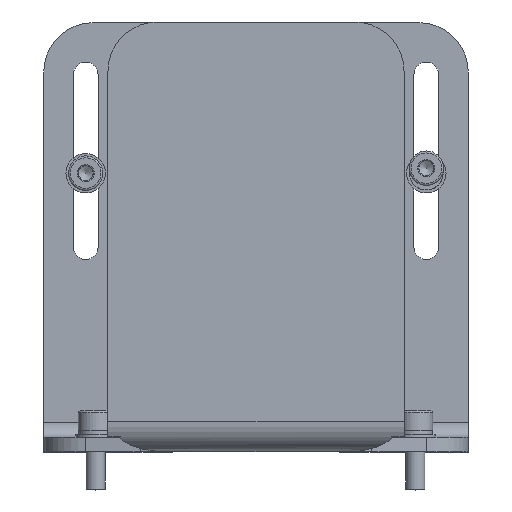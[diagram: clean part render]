
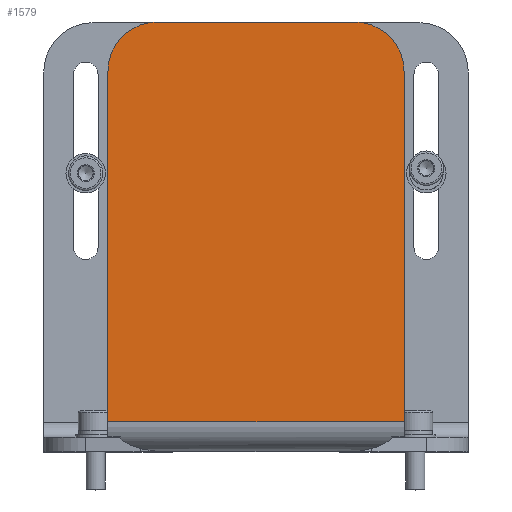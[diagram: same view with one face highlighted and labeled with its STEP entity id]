
A CAD part, top view. The second image highlights one B-rep face of the part: STEP entity #1579.
In plain terms, the highlighted planar face has unit normal (0, 0, 1).
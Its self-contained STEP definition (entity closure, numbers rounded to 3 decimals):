
#404=LINE('',#8124,#850);
#409=LINE('',#8138,#855);
#412=LINE('',#8148,#858);
#422=LINE('',#8170,#868);
#850=VECTOR('',#6531,1.);
#855=VECTOR('',#6544,1.);
#858=VECTOR('',#6555,1.);
#868=VECTOR('',#6573,1.);
#1237=FACE_OUTER_BOUND('',#2328,.T.);
#1579=ADVANCED_FACE('',(#1237),#1863,.F.);
#1863=PLANE('',#5575);
#2328=EDGE_LOOP('',(#3173,#3174,#3175,#3176,#3177,#3178));
#3173=ORIENTED_EDGE('',*,*,#4736,.F.);
#3174=ORIENTED_EDGE('',*,*,#4759,.T.);
#3175=ORIENTED_EDGE('',*,*,#4748,.T.);
#3176=ORIENTED_EDGE('',*,*,#4746,.T.);
#3177=ORIENTED_EDGE('',*,*,#4743,.F.);
#3178=ORIENTED_EDGE('',*,*,#4740,.T.);
#4185=VERTEX_POINT('',#8123);
#4186=VERTEX_POINT('',#8125);
#4189=VERTEX_POINT('',#8133);
#4191=VERTEX_POINT('',#8139);
#4193=VERTEX_POINT('',#8145);
#4194=VERTEX_POINT('',#8149);
#4736=EDGE_CURVE('',#4185,#4186,#404,.T.);
#4740=EDGE_CURVE('',#4189,#4186,#5206,.T.);
#4743=EDGE_CURVE('',#4189,#4191,#409,.T.);
#4746=EDGE_CURVE('',#4193,#4191,#5208,.T.);
#4748=EDGE_CURVE('',#4194,#4193,#412,.T.);
#4759=EDGE_CURVE('',#4185,#4194,#422,.T.);
#5206=CIRCLE('',#5565,10.);
#5208=CIRCLE('',#5569,10.);
#5565=AXIS2_PLACEMENT_3D('',#8132,#6538,#6539);
#5569=AXIS2_PLACEMENT_3D('',#8144,#6550,#6551);
#5575=AXIS2_PLACEMENT_3D('',#8171,#6574,#6575);
#6531=DIRECTION('',(0.,1.,0.));
#6538=DIRECTION('',(0.,0.,1.));
#6539=DIRECTION('',(-1.,0.,0.));
#6544=DIRECTION('',(1.,0.,0.));
#6550=DIRECTION('',(0.,0.,1.));
#6551=DIRECTION('',(-1.,0.,0.));
#6555=DIRECTION('',(0.,1.,0.));
#6573=DIRECTION('',(1.,0.,0.));
#6574=DIRECTION('',(0.,0.,-1.));
#6575=DIRECTION('',(1.,0.,0.));
#8123=CARTESIAN_POINT('',(-30.,-53.,20.302));
#8124=CARTESIAN_POINT('',(-30.,-37.5,20.302));
#8125=CARTESIAN_POINT('',(-30.,18.,20.302));
#8132=CARTESIAN_POINT('',(-20.,18.,20.302));
#8133=CARTESIAN_POINT('',(-20.,28.,20.302));
#8138=CARTESIAN_POINT('',(-32.,28.,20.302));
#8139=CARTESIAN_POINT('',(20.,28.,20.302));
#8144=CARTESIAN_POINT('',(20.,18.,20.302));
#8145=CARTESIAN_POINT('',(30.,18.,20.302));
#8148=CARTESIAN_POINT('',(30.,-37.5,20.302));
#8149=CARTESIAN_POINT('',(30.,-53.,20.302));
#8170=CARTESIAN_POINT('',(-32.,-53.,20.302));
#8171=CARTESIAN_POINT('',(-32.,-61.,20.302));
